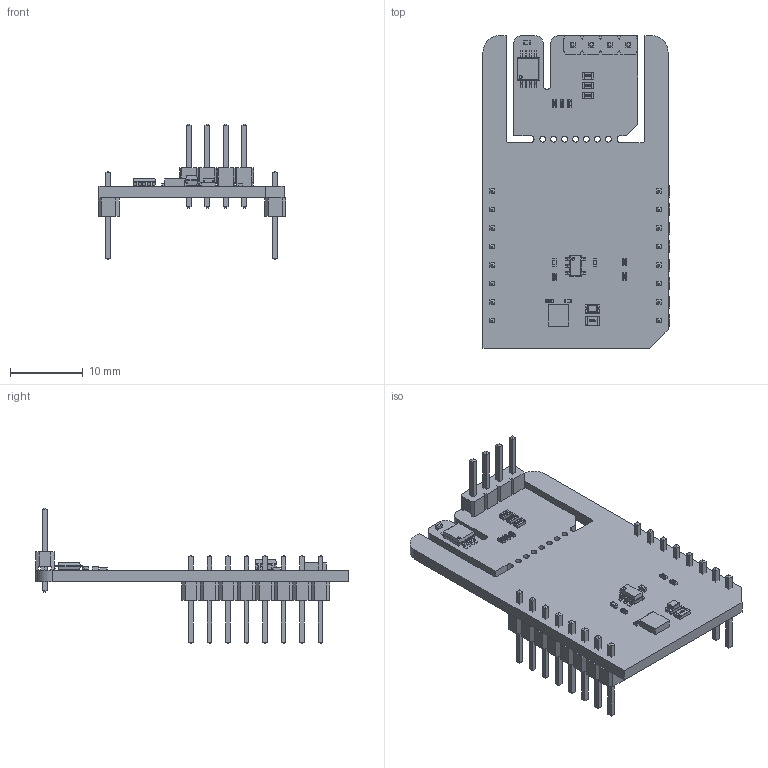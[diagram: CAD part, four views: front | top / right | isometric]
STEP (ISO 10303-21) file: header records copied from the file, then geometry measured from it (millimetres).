
FILE_DESCRIPTION(('Open CASCADE Model'),'2;1');
FILE_NAME('Open CASCADE Shape Model','2026-01-26T08:33:37',('Author'),( 'Open CASCADE'),'Open CASCADE STEP processor 6.8','Open CASCADE 6.8' ,'Unknown');
FILE_SCHEMA(('AUTOMOTIVE_DESIGN { 1 0 10303 214 1 1 1 1 }'));
Length unit declared in the file: millimetre
Products named in the file (43): PCB; Board; U3; User_Library-SOT23-5-2; U2; User_Library-TSSOP-8_3_1x3_1; User_Library-TSSOP-8_3.1x3.1_pin_TSSOP_tssop_1; User_Library-TSSOP-8_3.1x3.1_body_TSSOP_TSSOP_3.1x3.1_1; R8; User_Library-R_0402; R7; R6; R5; R4; R3; JP1; User_Library-R_0603; JP2; J1; 61300411121; 6130xx11121_PIN; C4; User_Library-SMD_CAPACITOR0402; C3; C2; JP3; MBD1; Header_1x8; Free-Models; 1240637040; User_Library-PinHeaderX5-1_PinHeaderX5_Body_1; User_Library-PinHeaderX5-1_PinHeaderX5_Pins_1; U1; 1074800104; Extruded; C1; R2; LD1; led_0805_green; R1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
Assembly tree (65 placements, depth 7):
  PCB
    Board
    U3
      User_Library-SOT23-5-2
    U2
      User_Library-TSSOP-8_3_1x3_1
        User_Library-TSSOP-8_3.1x3.1_pin_TSSOP_tssop_1  x8
        User_Library-TSSOP-8_3.1x3.1_body_TSSOP_TSSOP_3.1x3.1_1
    R8
      User_Library-R_0402
    R7
      User_Library-R_0402
    R6
      User_Library-R_0402
    R5
      User_Library-R_0402
    R4
      User_Library-R_0402
    R3
      User_Library-R_0402
    JP1
      User_Library-R_0603
    JP2
      User_Library-R_0603
    J1
      61300411121
        6130xx11121_PIN  x4
        61300411121
    C4
      User_Library-SMD_CAPACITOR0402
    C3
      User_Library-SMD_CAPACITOR0402
    C2
      User_Library-SMD_CAPACITOR0402
    JP3
      User_Library-R_0603
    MBD1
      Header_1x8  x2
        PCB
          Free-Models
            1240637040  x2
              User_Library-PinHeaderX5-1_PinHeaderX5_Body_1
              User_Library-PinHeaderX5-1_PinHeaderX5_Pins_1
    U1
      1074800104
        Extruded
    C1
      User_Library-SMD_CAPACITOR0402
    R2
      User_Library-R_0402
    LD1
      led_0805_green
    R1
      User_Library-R_0805
Bounding box: 25.78 x 42.93 x 18.65 mm (x, y, z)
Volume: 2214 mm3; surface area: 4199.7 mm2
Topology: 74 solids, 74 shells, 2061 faces, 5169 edges, 3310 vertices
Faces by surface type: plane 1518, bspline 359, cylinder 146, sphere 38
Full cylindrical faces by diameter (mm): 0.8 x7
Entity records: 33000 total; most frequent: CARTESIAN_POINT 11039, ORIENTED_EDGE 3666, DIRECTION 3110, EDGE_CURVE 1833, LINE 1460, VECTOR 1460, VERTEX_POINT 1182, AXIS2_PLACEMENT_3D 825
